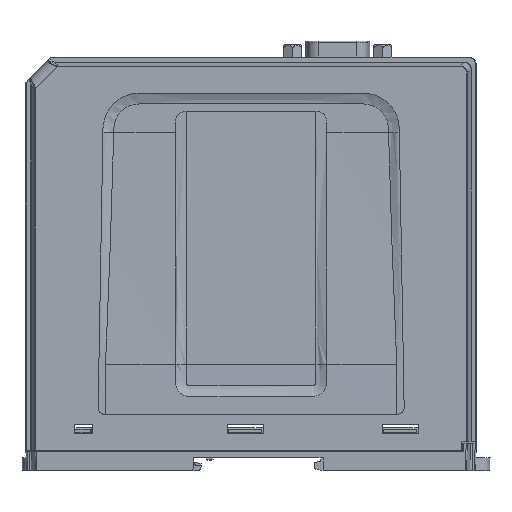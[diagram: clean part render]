
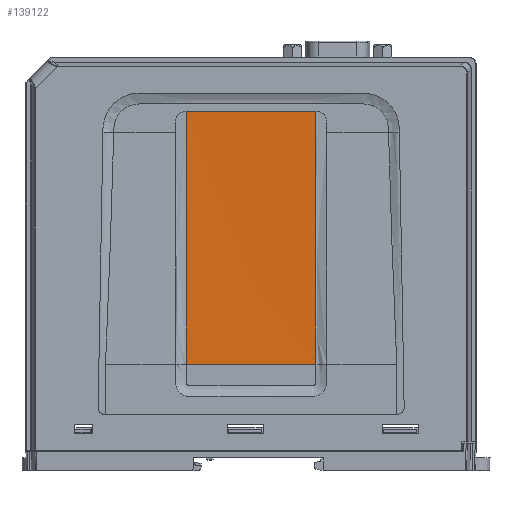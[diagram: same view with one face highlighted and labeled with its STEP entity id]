
A CAD part, top view. The second image highlights one B-rep face of the part: STEP entity #139122.
In plain terms, the highlighted free-form (B-spline) face has degree [3, 3] with [7, 6] control points.
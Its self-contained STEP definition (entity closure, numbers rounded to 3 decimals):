
#2659 = CARTESIAN_POINT ( 'NONE',  ( 15., 39.6, 12.5 ) ) ;
#3429 = CARTESIAN_POINT ( 'NONE',  ( 9., -30.601, 12.474 ) ) ;
#4926 = CARTESIAN_POINT ( 'NONE',  ( 0., -7.202, 12.2 ) ) ;
#5682 = CARTESIAN_POINT ( 'NONE',  ( -9., -30.601, 12.474 ) ) ;
#6354 = CARTESIAN_POINT ( 'NONE',  ( 18., -30.601, 12.474 ) ) ;
#8179 = CARTESIAN_POINT ( 'NONE',  ( 18., 35.791, 12.5 ) ) ;
#9713 = CARTESIAN_POINT ( 'NONE',  ( 18., 38.585, 12.5 ) ) ;
#11193 = CARTESIAN_POINT ( 'NONE',  ( -18., -22.801, 12.431 ) ) ;
#11969 = CARTESIAN_POINT ( 'NONE',  ( 9., 16.2, 12.5 ) ) ;
#14255 = CARTESIAN_POINT ( 'NONE',  ( 18., -30.601, 12.474 ) ) ;
#15531 = DIRECTION ( 'NONE',  ( -1., 0., 0. ) ) ;
#16530 = CARTESIAN_POINT ( 'NONE',  ( 0., -22.801, 12.431 ) ) ;
#17309 = CARTESIAN_POINT ( 'NONE',  ( 0., 16.2, 12.5 ) ) ;
#18840 = CARTESIAN_POINT ( 'NONE',  ( 9.001, -7.202, 12.2 ) ) ;
#19652 = VERTEX_POINT ( 'NONE', #45664 ) ;
#19804 = CARTESIAN_POINT ( 'NONE',  ( 18., 34.705, 12.5 ) ) ;
#23622 = CARTESIAN_POINT ( 'NONE',  ( 15., -30.601, 12.474 ) ) ;
#23851 = B_SPLINE_CURVE_WITH_KNOTS ( 'NONE', 3,
 ( #29125, #111057, #52293, #123430, #26830, #53046, #49986, #73928, #121148, #62355, #50760, #145111, #39194, #86331, #27603, #19804, #77762, #8179, #80069, #112589, #9713, #66929, #32947 ),
 .UNSPECIFIED., .F., .F.,
 ( 4, 1, 1, 1, 1, 1, 1, 1, 1, 1, 1, 1, 1, 1, 1, 2, 1, 1, 1, 4 ),
 ( 0., 0.112, 0.167, 0.168, 0.224, 0.336, 0.448, 0.556, 0.56, 0.672, 0.784, 0.896, 0.906, 0.917, 0.927, 0.938, 0.953, 0.969, 0.984, 1. ),
 .UNSPECIFIED. ) ;
#25295 = VERTEX_POINT ( 'NONE', #97581 ) ;
#25876 = CARTESIAN_POINT ( 'NONE',  ( -18., 39.6, 12.5 ) ) ;
#26090 = ORIENTED_EDGE ( 'NONE', *, *, #73736, .T. ) ;
#26830 = CARTESIAN_POINT ( 'NONE',  ( 18., -17.511, 12.365 ) ) ;
#27603 = CARTESIAN_POINT ( 'NONE',  ( 18., 33.969, 12.499 ) ) ;
#29125 = CARTESIAN_POINT ( 'NONE',  ( 18., -30.601, 12.474 ) ) ;
#32947 = CARTESIAN_POINT ( 'NONE',  ( 18., 39.6, 12.5 ) ) ;
#35219 = FACE_OUTER_BOUND ( 'NONE', #149493, .T. ) ;
#37063 = VERTEX_POINT ( 'NONE', #50870 ) ;
#38295 = ORIENTED_EDGE ( 'NONE', *, *, #47039, .F. ) ;
#39022 = CARTESIAN_POINT ( 'NONE',  ( -18., -30.601, 12.474 ) ) ;
#39194 = CARTESIAN_POINT ( 'NONE',  ( 18., 30.078, 12.497 ) ) ;
#40187 = ORIENTED_EDGE ( 'NONE', *, *, #44904, .T. ) ;
#44904 = EDGE_CURVE ( 'NONE', #37063, #48342, #121484, .T. ) ;
#45664 = CARTESIAN_POINT ( 'NONE',  ( -18., -30.601, 12.474 ) ) ;
#46747 = CARTESIAN_POINT ( 'NONE',  ( -18., -7.202, 12.2 ) ) ;
#47039 = EDGE_CURVE ( 'NONE', #25295, #19652, #110490, .T. ) ;
#48257 = CARTESIAN_POINT ( 'NONE',  ( -18., -30.601, 12.474 ) ) ;
#48342 = VERTEX_POINT ( 'NONE', #102384 ) ;
#49986 = CARTESIAN_POINT ( 'NONE',  ( 18., -6.999, 12.296 ) ) ;
#50586 = CARTESIAN_POINT ( 'NONE',  ( -15., -22.801, 12.431 ) ) ;
#50760 = CARTESIAN_POINT ( 'NONE',  ( 18., 16.625, 12.458 ) ) ;
#50870 = CARTESIAN_POINT ( 'NONE',  ( 18., 39.6, 12.5 ) ) ;
#52293 = CARTESIAN_POINT ( 'NONE',  ( 18., -24.066, 12.426 ) ) ;
#52767 = CARTESIAN_POINT ( 'NONE',  ( 6.001, -30.601, 12.474 ) ) ;
#52862 = CARTESIAN_POINT ( 'NONE',  ( -9., -22.801, 12.431 ) ) ;
#53046 = CARTESIAN_POINT ( 'NONE',  ( 18., -13.549, 12.331 ) ) ;
#55075 = CARTESIAN_POINT ( 'NONE',  ( -6.001, -30.601, 12.474 ) ) ;
#61399 = VECTOR ( 'NONE', #15531, 1000. ) ;
#62189 = CARTESIAN_POINT ( 'NONE',  ( 15., -7.202, 12.2 ) ) ;
#62355 = CARTESIAN_POINT ( 'NONE',  ( 18., 11.266, 12.413 ) ) ;
#63429 = CARTESIAN_POINT ( 'NONE',  ( 62.5, 39.6, 12.5 ) ) ;
#64462 = CARTESIAN_POINT ( 'NONE',  ( -9., 31.8, 12.5 ) ) ;
#65994 = CARTESIAN_POINT ( 'NONE',  ( 0., 39.6, 12.5 ) ) ;
#66929 = CARTESIAN_POINT ( 'NONE',  ( 18., 39.263, 12.5 ) ) ;
#70698 = CARTESIAN_POINT ( 'NONE',  ( 9., 39.6, 12.5 ) ) ;
#73736 = EDGE_CURVE ( 'NONE', #25295, #37063, #23851, .T. ) ;
#73757 = CARTESIAN_POINT ( 'NONE',  ( 15., 31.8, 12.5 ) ) ;
#73928 = CARTESIAN_POINT ( 'NONE',  ( 18., 0.765, 12.325 ) ) ;
#74520 = CARTESIAN_POINT ( 'NONE',  ( -18., -7.202, 12.2 ) ) ;
#75275 = CARTESIAN_POINT ( 'NONE',  ( 0., -30.601, 12.474 ) ) ;
#76040 = CARTESIAN_POINT ( 'NONE',  ( -18., 39.6, 12.5 ) ) ;
#77585 = CARTESIAN_POINT ( 'NONE',  ( -9., -7.202, 12.2 ) ) ;
#77762 = CARTESIAN_POINT ( 'NONE',  ( 18., 35.19, 12.5 ) ) ;
#80069 = CARTESIAN_POINT ( 'NONE',  ( 18., 36.503, 12.5 ) ) ;
#82318 = CARTESIAN_POINT ( 'NONE',  ( -18., 16.2, 12.5 ) ) ;
#82334 = CARTESIAN_POINT ( 'NONE',  ( 18., 16.2, 12.5 ) ) ;
#84616 = CARTESIAN_POINT ( 'NONE',  ( 18., -7.202, 12.2 ) ) ;
#86331 = CARTESIAN_POINT ( 'NONE',  ( 18., 33.228, 12.499 ) ) ;
#88443 = CARTESIAN_POINT ( 'NONE',  ( -15., 31.8, 12.5 ) ) ;
#97581 = CARTESIAN_POINT ( 'NONE',  ( 18., -30.601, 12.474 ) ) ;
#99248 = CARTESIAN_POINT ( 'NONE',  ( 0., 31.8, 12.5 ) ) ;
#102384 = CARTESIAN_POINT ( 'NONE',  ( -18., 39.6, 12.5 ) ) ;
#110490 = B_SPLINE_CURVE_WITH_KNOTS ( 'NONE', 3,
 ( #6354, #52767, #55075, #152277 ),
 .UNSPECIFIED., .F., .F.,
 ( 4, 4 ),
 ( 0., 1. ),
 .UNSPECIFIED. ) ;
#110882 = CARTESIAN_POINT ( 'NONE',  ( -15., 16.2, 12.5 ) ) ;
#111057 = CARTESIAN_POINT ( 'NONE',  ( 18., -27.973, 12.46 ) ) ;
#111328 = ORIENTED_EDGE ( 'NONE', *, *, #129785, .T. ) ;
#111645 = CARTESIAN_POINT ( 'NONE',  ( 9., -22.801, 12.431 ) ) ;
#112589 = CARTESIAN_POINT ( 'NONE',  ( 18., 37.552, 12.5 ) ) ;
#117912 = CARTESIAN_POINT ( 'NONE',  ( 9., 31.8, 12.5 ) ) ;
#120203 = CARTESIAN_POINT ( 'NONE',  ( 18., -22.801, 12.431 ) ) ;
#120980 = CARTESIAN_POINT ( 'NONE',  ( 15., 16.2, 12.5 ) ) ;
#121148 = CARTESIAN_POINT ( 'NONE',  ( 18., 6.013, 12.369 ) ) ;
#121484 = LINE ( 'NONE', #63429, #61399 ) ;
#122497 = CARTESIAN_POINT ( 'NONE',  ( -15., -7.202, 12.2 ) ) ;
#123430 = CARTESIAN_POINT ( 'NONE',  ( 18., -20.132, 12.389 ) ) ;
#129527 = CARTESIAN_POINT ( 'NONE',  ( 15., -22.801, 12.431 ) ) ;
#129785 = EDGE_CURVE ( 'NONE', #48342, #19652, #132557, .T. ) ;
#131801 = CARTESIAN_POINT ( 'NONE',  ( 18., 31.8, 12.5 ) ) ;
#132557 = B_SPLINE_CURVE_WITH_KNOTS ( 'NONE', 3,
 ( #25876, #143399, #82318, #46747, #11193, #48257 ),
 .UNSPECIFIED., .F., .F.,
 ( 4, 1, 1, 4 ),
 ( 0., 0.333, 0.667, 1. ),
 .UNSPECIFIED. ) ;
#132566 = CARTESIAN_POINT ( 'NONE',  ( 18., 39.6, 12.5 ) ) ;
#133336 = CARTESIAN_POINT ( 'NONE',  ( -18., -22.801, 12.431 ) ) ;
#134082 = CARTESIAN_POINT ( 'NONE',  ( -9., 16.2, 12.5 ) ) ;
#134730 = B_SPLINE_SURFACE_WITH_KNOTS ( 'NONE', 3, 3, ( 
 ( #132566, #131801, #82334, #84616, #120203, #14255 ),
 ( #2659, #73757, #120980, #62189, #129527, #23622 ),
 ( #70698, #117912, #11969, #18840, #111645, #3429 ),
 ( #65994, #99248, #17309, #4926, #16530, #75275 ),
 ( #146458, #64462, #134082, #77585, #52862, #5682 ),
 ( #144936, #88443, #110882, #122497, #50586, #134847 ),
 ( #76040, #147976, #136384, #74520, #133336, #39022 ) ),
 .UNSPECIFIED., .F., .F., .F.,
 ( 4, 1, 1, 1, 4 ),
 ( 4, 1, 1, 4 ),
 ( 0., 0.25, 0.5, 0.75, 1. ),
 ( 0., 0.333, 0.667, 1. ),
 .UNSPECIFIED. ) ;
#134847 = CARTESIAN_POINT ( 'NONE',  ( -15., -30.601, 12.474 ) ) ;
#136384 = CARTESIAN_POINT ( 'NONE',  ( -18., 16.2, 12.5 ) ) ;
#139122 = ADVANCED_FACE ( 'NONE', ( #35219 ), #134730, .T. ) ;
#143399 = CARTESIAN_POINT ( 'NONE',  ( -18., 31.8, 12.5 ) ) ;
#144936 = CARTESIAN_POINT ( 'NONE',  ( -15., 39.6, 12.5 ) ) ;
#145111 = CARTESIAN_POINT ( 'NONE',  ( 18., 24.537, 12.49 ) ) ;
#146458 = CARTESIAN_POINT ( 'NONE',  ( -9., 39.6, 12.5 ) ) ;
#147976 = CARTESIAN_POINT ( 'NONE',  ( -18., 31.8, 12.5 ) ) ;
#149493 = EDGE_LOOP ( 'NONE', ( #40187, #111328, #38295, #26090 ) ) ;
#152277 = CARTESIAN_POINT ( 'NONE',  ( -18., -30.601, 12.474 ) ) ;
